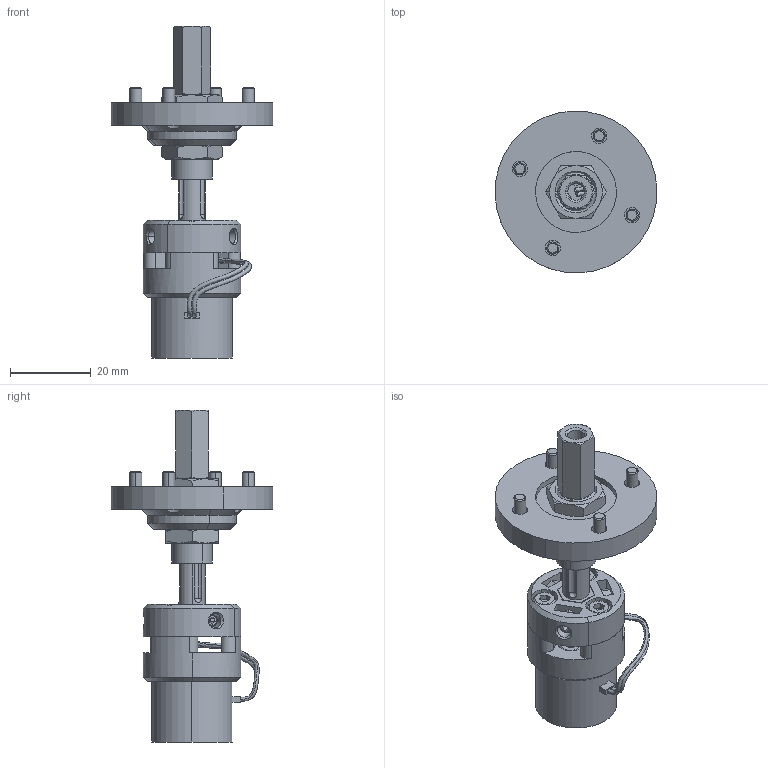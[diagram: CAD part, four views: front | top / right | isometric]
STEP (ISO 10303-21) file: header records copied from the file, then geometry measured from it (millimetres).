
FILE_DESCRIPTION (( 'STEP AP214' ), '1' );
FILE_NAME ('astorino_magneticGripper.STEP', '2024-05-02T08:31:11', ( '' ), ( '' ), 'SwSTEP 2.0', 'SolidWorks 2021', '' );
FILE_SCHEMA (( 'AUTOMOTIVE_DESIGN' ));
Length unit declared in the file: millimetre
Products named in the file (1): astorino_magneticGripper
Bounding box: 39.96 x 39.96 x 82 mm (x, y, z)
Surface area: 12017.4 mm2 (no closed solid volume)
Topology: 0 solids, 35 shells, 364 faces, 1051 edges, 681 vertices
Faces by surface type: plane 164, cylinder 92, cone 75, torus 20, bspline 13
Entity records: 20943 total; most frequent: CARTESIAN_POINT 7496, DIRECTION 2047, ORIENTED_EDGE 1734, EDGE_CURVE 1033, AXIS2_PLACEMENT_3D 764, VERTEX_POINT 681, LINE 519, VECTOR 519
